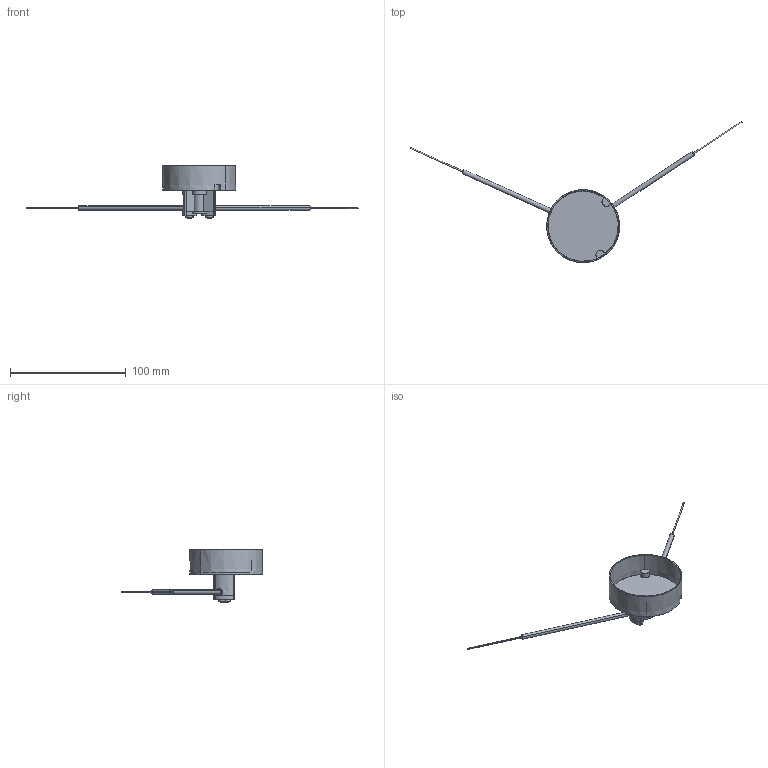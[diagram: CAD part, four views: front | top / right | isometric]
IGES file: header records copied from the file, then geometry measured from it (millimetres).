
Start section: SolidWorks IGES file using analytic representation for surfaces
Global section: file name: C:\Users\Toshiba\Desktop\FU-30PRO.IGS; native system: SolidWorks 2014; preprocessor: SolidWorks 2014; author: Toshiba; date: 160621.083951; units: metre
Bounding box: 286.86 x 122.08 x 45.61 mm (x, y, z)
Surface area: 21686.5 mm2 (no closed solid volume)
Topology: 0 solids, 0 shells, 169 faces, 2394 edges, 2392 vertices
Faces by surface type: bspline 87, revolution 82
